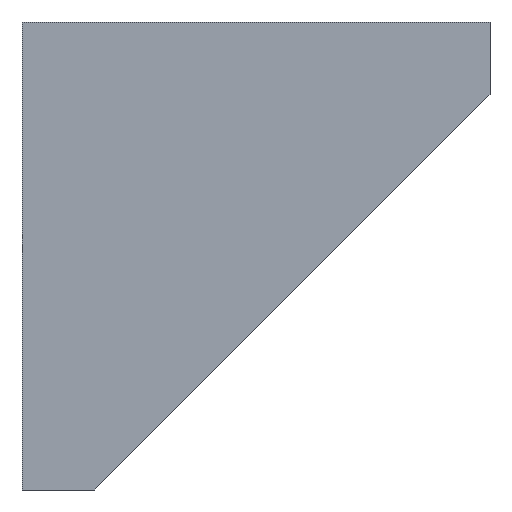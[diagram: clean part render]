
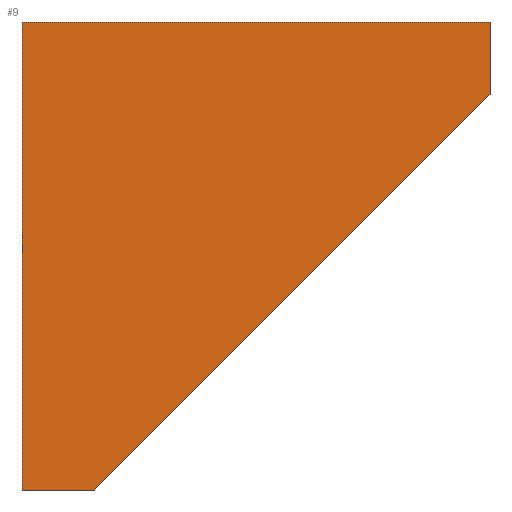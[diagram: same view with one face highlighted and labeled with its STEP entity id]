
A CAD part, left-side view. The second image highlights one B-rep face of the part: STEP entity #9.
In plain terms, the highlighted planar face has unit normal (-1, 0, 0).
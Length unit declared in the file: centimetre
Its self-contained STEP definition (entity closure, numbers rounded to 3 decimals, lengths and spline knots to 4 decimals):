
#9 = ADVANCED_FACE ( 'NONE', ( #326 ), #172, .F. ) ;
#14 = CARTESIAN_POINT ( 'NONE',  ( 0., 1000., 1000. ) ) ;
#23 = EDGE_CURVE ( 'NONE', #150, #205, #173, .T. ) ;
#28 = CARTESIAN_POINT ( 'NONE',  ( 0., 0., 844.9715 ) ) ;
#37 = CARTESIAN_POINT ( 'NONE',  ( 0., 1000., 0. ) ) ;
#38 = EDGE_LOOP ( 'NONE', ( #167, #192, #273, #250, #253 ) ) ;
#41 = VERTEX_POINT ( 'NONE', #330 ) ;
#48 = AXIS2_PLACEMENT_3D ( 'NONE', #301, #280, #196 ) ;
#73 = EDGE_CURVE ( 'NONE', #120, #41, #166, .T. ) ;
#80 = CARTESIAN_POINT ( 'NONE',  ( 0., 1000., 0. ) ) ;
#87 = EDGE_CURVE ( 'NONE', #205, #277, #218, .T. ) ;
#111 = CARTESIAN_POINT ( 'NONE',  ( 0., 0., 1000. ) ) ;
#114 = CARTESIAN_POINT ( 'NONE',  ( 0., 0., 1000. ) ) ;
#117 = EDGE_CURVE ( 'NONE', #150, #120, #138, .T. ) ;
#120 = VERTEX_POINT ( 'NONE', #111 ) ;
#124 = CARTESIAN_POINT ( 'NONE',  ( 0., 1000., 1000. ) ) ;
#126 = VECTOR ( 'NONE', #243, 100. ) ;
#138 = LINE ( 'NONE', #14, #126 ) ;
#141 = VECTOR ( 'NONE', #320, 100. ) ;
#150 = VERTEX_POINT ( 'NONE', #246 ) ;
#166 = LINE ( 'NONE', #114, #331 ) ;
#167 = ORIENTED_EDGE ( 'NONE', *, *, #87, .T. ) ;
#170 = VECTOR ( 'NONE', #242, 100. ) ;
#172 = PLANE ( 'NONE',  #48 ) ;
#173 = LINE ( 'NONE', #124, #325 ) ;
#192 = ORIENTED_EDGE ( 'NONE', *, *, #265, .T. ) ;
#196 = DIRECTION ( 'NONE',  ( 0., 0., -1. ) ) ;
#205 = VERTEX_POINT ( 'NONE', #80 ) ;
#218 = LINE ( 'NONE', #37, #141 ) ;
#220 = DIRECTION ( 'NONE',  ( 0., 0., -1. ) ) ;
#225 = DIRECTION ( 'NONE',  ( 0., 0., -1. ) ) ;
#231 = CARTESIAN_POINT ( 'NONE',  ( 0., 844.9715, 0. ) ) ;
#242 = DIRECTION ( 'NONE',  ( 0., -0.707, 0.707 ) ) ;
#243 = DIRECTION ( 'NONE',  ( 0., -1., 0. ) ) ;
#246 = CARTESIAN_POINT ( 'NONE',  ( 0., 1000., 1000. ) ) ;
#250 = ORIENTED_EDGE ( 'NONE', *, *, #117, .F. ) ;
#253 = ORIENTED_EDGE ( 'NONE', *, *, #23, .T. ) ;
#265 = EDGE_CURVE ( 'NONE', #277, #41, #315, .T. ) ;
#273 = ORIENTED_EDGE ( 'NONE', *, *, #73, .F. ) ;
#277 = VERTEX_POINT ( 'NONE', #231 ) ;
#280 = DIRECTION ( 'NONE',  ( 1., 0., 0. ) ) ;
#301 = CARTESIAN_POINT ( 'NONE',  ( 0., 1000., 1000. ) ) ;
#315 = LINE ( 'NONE', #28, #170 ) ;
#320 = DIRECTION ( 'NONE',  ( 0., -1., 0. ) ) ;
#325 = VECTOR ( 'NONE', #225, 100. ) ;
#326 = FACE_OUTER_BOUND ( 'NONE', #38, .T. ) ;
#330 = CARTESIAN_POINT ( 'NONE',  ( 0., 0., 844.9715 ) ) ;
#331 = VECTOR ( 'NONE', #220, 100. ) ;
